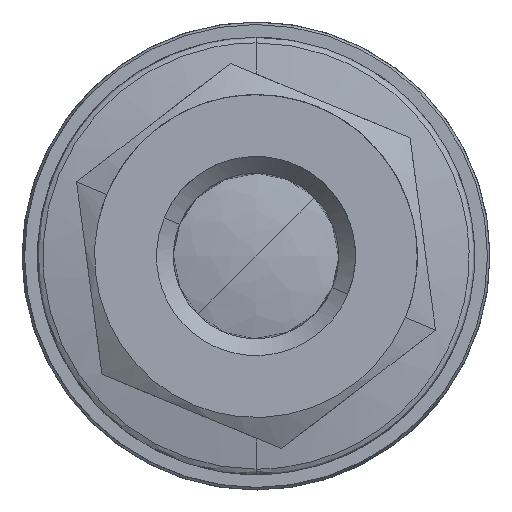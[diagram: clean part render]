
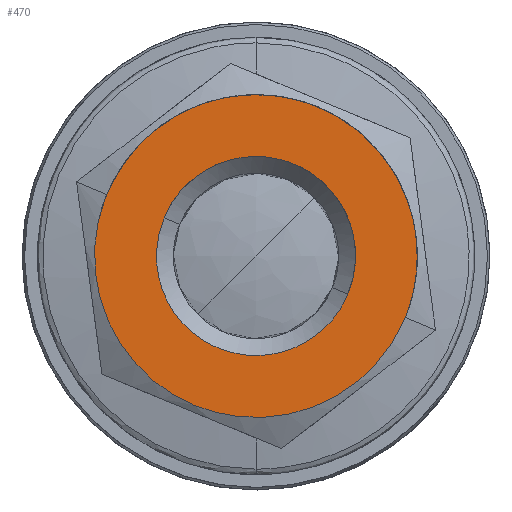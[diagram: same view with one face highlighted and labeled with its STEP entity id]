
A CAD part, left-side view. The second image highlights one B-rep face of the part: STEP entity #470.
In plain terms, the highlighted planar face has unit normal (-1, 0, 0).
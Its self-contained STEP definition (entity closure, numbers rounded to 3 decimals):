
#39=FACE_BOUND($,#562,.T.);
#42=PLANE($,#1309);
#470=ADVANCED_FACE($,(#515,#39),#42,.T.);
#515=FACE_OUTER_BOUND($,#561,.T.);
#561=EDGE_LOOP($,(#639));
#562=EDGE_LOOP($,(#640));
#639=ORIENTED_EDGE($,*,*,#816,.F.);
#640=ORIENTED_EDGE($,*,*,#817,.F.);
#816=EDGE_CURVE($,#967,#967,#1260,.T.);
#817=EDGE_CURVE($,#968,#968,#1125,.T.);
#967=VERTEX_POINT($,#1856);
#968=VERTEX_POINT($,#1857);
#1125=B_SPLINE_CURVE_WITH_KNOTS($,3,(#1836,#1837,#1838,#1839,#1840,#1841,
#1842,#1843,#1844,#1845,#1846,#1847,#1848,#1849,#1850,#1851,#1852,#1853,
#1854),.UNSPECIFIED.,.T.,.F.,(4,1,1,1,1,1,1,1,1,1,1,1,1,1,1,1,4),(-18.589,
-17.475,-16.265,-15.055,-13.942,
-12.828,-11.618,-10.408,-9.294,
-8.181,-6.971,-5.761,-4.647,
-3.534,-2.324,-1.113,0.),.UNSPECIFIED.);
#1260=(
BOUNDED_CURVE()
B_SPLINE_CURVE(2,(#1827,#1828,#1829,#1830,#1831,#1832,#1833,#1834,#1835),
.UNSPECIFIED.,.T.,.F.)
B_SPLINE_CURVE_WITH_KNOTS((3,2,2,2,3),(-30.16,-22.62,
-15.08,-7.54,0.),.UNSPECIFIED.)
CURVE()
GEOMETRIC_REPRESENTATION_ITEM()
RATIONAL_B_SPLINE_CURVE((1.,0.707,1.,0.707,1.,0.707,
1.,0.707,1.))
REPRESENTATION_ITEM($)
);
#1309=AXIS2_PLACEMENT_3D($,#1855,#1326,$);
#1326=DIRECTION($,(-1.,0.,0.));
#1827=CARTESIAN_POINT($,(-17.126,-4.439,-1.829));
#1828=CARTESIAN_POINT($,(-17.126,-2.61,-6.268));
#1829=CARTESIAN_POINT($,(-17.126,1.829,-4.439));
#1830=CARTESIAN_POINT($,(-17.126,6.268,-2.61));
#1831=CARTESIAN_POINT($,(-17.126,4.439,1.829));
#1832=CARTESIAN_POINT($,(-17.126,2.61,6.268));
#1833=CARTESIAN_POINT($,(-17.126,-1.829,4.439));
#1834=CARTESIAN_POINT($,(-17.126,-6.268,2.61));
#1835=CARTESIAN_POINT($,(-17.126,-4.439,-1.829));
#1836=CARTESIAN_POINT($,(-17.126,2.734,1.13));
#1837=CARTESIAN_POINT($,(-17.126,2.876,0.787));
#1838=CARTESIAN_POINT($,(-17.126,3.036,0.015));
#1839=CARTESIAN_POINT($,(-17.126,2.81,-1.167));
#1840=CARTESIAN_POINT($,(-17.126,2.132,-2.161));
#1841=CARTESIAN_POINT($,(-17.126,1.157,-2.8));
#1842=CARTESIAN_POINT($,(-17.126,0.015,-3.036));
#1843=CARTESIAN_POINT($,(-17.126,-1.167,-2.81));
#1844=CARTESIAN_POINT($,(-17.126,-2.161,-2.132));
#1845=CARTESIAN_POINT($,(-17.126,-2.8,-1.157));
#1846=CARTESIAN_POINT($,(-17.126,-3.036,-0.015));
#1847=CARTESIAN_POINT($,(-17.126,-2.81,1.167));
#1848=CARTESIAN_POINT($,(-17.126,-2.132,2.161));
#1849=CARTESIAN_POINT($,(-17.126,-1.157,2.8));
#1850=CARTESIAN_POINT($,(-17.126,-0.015,3.036));
#1851=CARTESIAN_POINT($,(-17.126,1.167,2.81));
#1852=CARTESIAN_POINT($,(-17.126,2.161,2.132));
#1853=CARTESIAN_POINT($,(-17.126,2.593,1.473));
#1854=CARTESIAN_POINT($,(-17.126,2.734,1.13));
#1855=CARTESIAN_POINT($,(-17.126,-2.656,-6.396));
#1856=CARTESIAN_POINT($,(-17.126,-4.439,-1.829));
#1857=CARTESIAN_POINT($,(-17.126,2.734,1.13));
